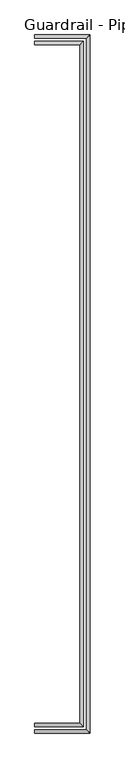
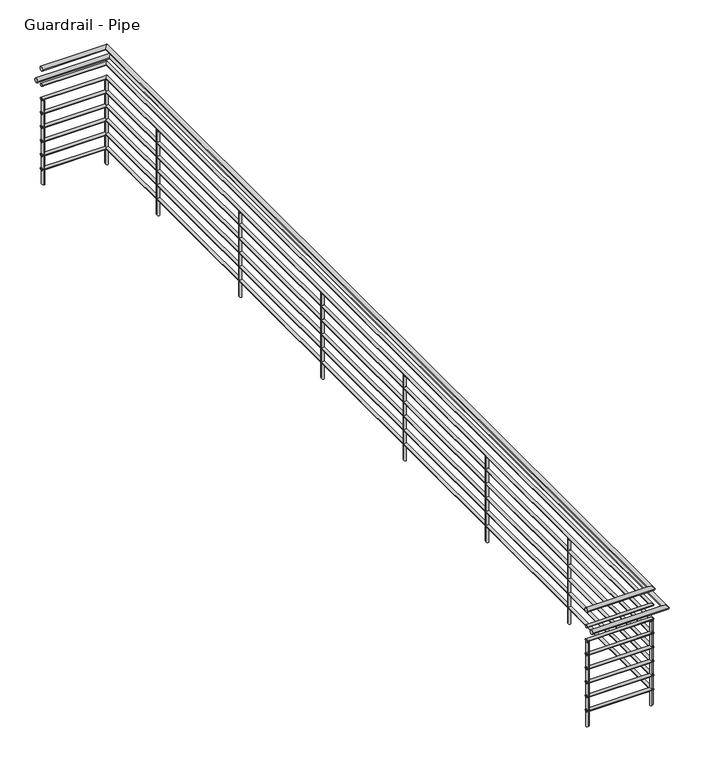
"""IFC4 building model written with IfcOpenShell, lengths in millimetres: railing geometry, Guardrail - Pipe."""

from ifc_helpers import new_model, si_unit, frame, origin, place, context, project, spatial, circle_curve, ellipse_curve, source, transform, mapped, element, save
from ifc_brep_helpers import plane_surface, cylinder_surface, advanced_brep


def guardrail_pipe_ba8d120a(model_context):
    return source(origin(), model_context, "Body", "AdvancedBrep", [
        advanced_brep(
        [(13389.3313551, 10867.95, 4705.35), (13389.3313551, 10906.05, 4705.35), (13967.1813551, 10867.95, 4705.35), (13929.0813551, 10906.05, 4705.35), (13967.1813551, 18983.25, 4705.35), (13929.0813551, 18945.15, 4705.35), (13389.3313551, 18983.25, 4705.35), (13389.3313551, 18945.15, 4705.35)],
        [
            (0, 1, circle_curve(frame((13389.3313551, 10887.0, 4705.35), z_axis=(-1.0, 0.0, 0.0), x_axis=(0.0, 1.0, 0.0)), 19.05)),
            (1, 0, circle_curve(frame((13389.3313551, 10887.0, 4705.35), z_axis=(-1.0, 0.0, 0.0), x_axis=(0.0, 1.0, 0.0)), 19.05)),
            (0, 2),
            (2, 3, ellipse_curve(frame((13948.1313551, 10887.0, 4705.35), z_axis=(-0.7071067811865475, -0.7071067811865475, 0.0), x_axis=(-0.7071067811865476, 0.7071067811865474, 0.0)), 26.9407684, 19.05)),
            (3, 1),
            (3, 2, ellipse_curve(frame((13948.1313551, 10887.0, 4705.35), z_axis=(-0.7071067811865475, -0.7071067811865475, 0.0), x_axis=(-0.7071067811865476, 0.7071067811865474, 0.0)), 26.9407684, 19.05)),
            (2, 4),
            (4, 5, ellipse_curve(frame((13948.1313551, 18964.2, 4705.35), z_axis=(0.7071067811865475, -0.7071067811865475, 0.0), x_axis=(-0.7071067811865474, -0.7071067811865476, 0.0)), 26.9407684, 19.05)),
            (5, 3),
            (5, 4, ellipse_curve(frame((13948.1313551, 18964.2, 4705.35), z_axis=(0.7071067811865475, -0.7071067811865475, 0.0), x_axis=(-0.7071067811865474, -0.7071067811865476, 0.0)), 26.9407684, 19.05)),
            (6, 7, circle_curve(frame((13389.3313551, 18964.2, 4705.35), z_axis=(-1.0, 0.0, 0.0), x_axis=(0.0, -1.0, 0.0)), 19.05)),
            (7, 6, circle_curve(frame((13389.3313551, 18964.2, 4705.35), z_axis=(-1.0, 0.0, 0.0), x_axis=(0.0, -1.0, 0.0)), 19.05)),
            (4, 6),
            (7, 5),
        ],
        [
            plane_surface(frame((13389.3313551, 10887.0, 4724.4), z_axis=(-1.0, 0.0, 0.0), x_axis=(0.0, 1.0, 0.0))),
            cylinder_surface(frame((13389.3313551, 10887.0, 4705.35), z_axis=(-1.0, 0.0, 0.0), x_axis=(0.0, 1.0, 0.0)), 19.05),
            cylinder_surface(frame((13948.1313551, 10887.0, 4705.35), z_axis=(0.0, -1.0, 0.0), x_axis=(-1.0, 0.0, 0.0)), 19.05),
            plane_surface(frame((13389.3313551, 18964.2, 4724.4), z_axis=(-1.0, 0.0, 0.0), x_axis=(0.0, -1.0, 0.0))),
            cylinder_surface(frame((13948.1313551, 18964.2, 4705.35), z_axis=(1.0, 0.0, 0.0), x_axis=(0.0, -1.0, 0.0)), 19.05),
        ],
        [
            (0, [[1, 2]]),
            (1, [[-1, 3, 4, 5]]),
            (1, [[-2, -5, 6, -3]]),
            (2, [[-4, 7, 8, 9]]),
            (2, [[-6, -9, 10, -7]]),
            (3, [[11, 12]]),
            (4, [[-8, 13, -12, 14]]),
            (4, [[-10, -14, -11, -13]]),
        ],
    ),
        advanced_brep(
        [(13389.3313551, 10874.3, 4559.3), (13389.3313551, 10899.7, 4559.3), (13960.8313551, 10874.3, 4559.3), (13935.4313551, 10899.7, 4559.3), (13960.8313551, 18976.9, 4559.3), (13935.4313551, 18951.5, 4559.3), (13389.3313551, 18976.9, 4559.3), (13389.3313551, 18951.5, 4559.3)],
        [
            (0, 1, circle_curve(frame((13389.3313551, 10887.0, 4559.3), z_axis=(-1.0, 0.0, 0.0), x_axis=(0.0, 1.0, 0.0)), 12.7)),
            (1, 0, circle_curve(frame((13389.3313551, 10887.0, 4559.3), z_axis=(-1.0, 0.0, 0.0), x_axis=(0.0, 1.0, 0.0)), 12.7)),
            (0, 2),
            (2, 3, ellipse_curve(frame((13948.1313551, 10887.0, 4559.3), z_axis=(-0.7071067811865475, -0.7071067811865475, 0.0), x_axis=(-0.7071067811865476, 0.7071067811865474, 0.0)), 17.9605122, 12.7)),
            (3, 1),
            (3, 2, ellipse_curve(frame((13948.1313551, 10887.0, 4559.3), z_axis=(-0.7071067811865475, -0.7071067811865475, 0.0), x_axis=(-0.7071067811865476, 0.7071067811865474, 0.0)), 17.9605122, 12.7)),
            (2, 4),
            (4, 5, ellipse_curve(frame((13948.1313551, 18964.2, 4559.3), z_axis=(0.7071067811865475, -0.7071067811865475, 0.0), x_axis=(-0.7071067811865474, -0.7071067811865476, 0.0)), 17.9605122, 12.7)),
            (5, 3),
            (5, 4, ellipse_curve(frame((13948.1313551, 18964.2, 4559.3), z_axis=(0.7071067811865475, -0.7071067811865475, 0.0), x_axis=(-0.7071067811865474, -0.7071067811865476, 0.0)), 17.9605122, 12.7)),
            (6, 7, circle_curve(frame((13389.3313551, 18964.2, 4559.3), z_axis=(-1.0, 0.0, 0.0), x_axis=(0.0, -1.0, 0.0)), 12.7)),
            (7, 6, circle_curve(frame((13389.3313551, 18964.2, 4559.3), z_axis=(-1.0, 0.0, 0.0), x_axis=(0.0, -1.0, 0.0)), 12.7)),
            (4, 6),
            (7, 5),
        ],
        [
            plane_surface(frame((13389.3313551, 10887.0, 4572.0), z_axis=(-1.0, 0.0, 0.0), x_axis=(0.0, 1.0, 0.0))),
            cylinder_surface(frame((13389.3313551, 10887.0, 4559.3), z_axis=(-1.0, 0.0, 0.0), x_axis=(0.0, 1.0, 0.0)), 12.7),
            cylinder_surface(frame((13948.1313551, 10887.0, 4559.3), z_axis=(0.0, -1.0, 0.0), x_axis=(-1.0, 0.0, 0.0)), 12.7),
            plane_surface(frame((13389.3313551, 18964.2, 4572.0), z_axis=(-1.0, 0.0, 0.0), x_axis=(0.0, -1.0, 0.0))),
            cylinder_surface(frame((13948.1313551, 18964.2, 4559.3), z_axis=(1.0, 0.0, 0.0), x_axis=(0.0, -1.0, 0.0)), 12.7),
        ],
        [
            (0, [[1, 2]]),
            (1, [[-1, 3, 4, 5]]),
            (1, [[-2, -5, 6, -3]]),
            (2, [[-4, 7, 8, 9]]),
            (2, [[-6, -9, 10, -7]]),
            (3, [[11, 12]]),
            (4, [[-8, 13, -12, 14]]),
            (4, [[-10, -14, -11, -13]]),
        ],
    ),
        advanced_brep(
        [(13389.3313551, 10791.75, 4552.95), (13389.3313551, 10829.85, 4552.95), (14043.3813551, 10791.75, 4552.95), (14005.2813551, 10829.85, 4552.95), (14043.3813551, 19059.45, 4552.95), (14005.2813551, 19021.35, 4552.95), (13389.3313551, 19059.45, 4552.95), (13389.3313551, 19021.35, 4552.95)],
        [
            (0, 1, circle_curve(frame((13389.3313551, 10810.8, 4552.95), z_axis=(-1.0, 0.0, 0.0), x_axis=(0.0, 1.0, 0.0)), 19.05)),
            (1, 0, circle_curve(frame((13389.3313551, 10810.8, 4552.95), z_axis=(-1.0, 0.0, 0.0), x_axis=(0.0, 1.0, 0.0)), 19.05)),
            (0, 2),
            (2, 3, ellipse_curve(frame((14024.3313551, 10810.8, 4552.95), z_axis=(-0.7071067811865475, -0.7071067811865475, 0.0), x_axis=(-0.7071067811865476, 0.7071067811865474, 0.0)), 26.9407684, 19.05)),
            (3, 1),
            (3, 2, ellipse_curve(frame((14024.3313551, 10810.8, 4552.95), z_axis=(-0.7071067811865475, -0.7071067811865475, 0.0), x_axis=(-0.7071067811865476, 0.7071067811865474, 0.0)), 26.9407684, 19.05)),
            (2, 4),
            (4, 5, ellipse_curve(frame((14024.3313551, 19040.4, 4552.95), z_axis=(0.7071067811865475, -0.7071067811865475, 0.0), x_axis=(-0.7071067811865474, -0.7071067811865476, 0.0)), 26.9407684, 19.05)),
            (5, 3),
            (5, 4, ellipse_curve(frame((14024.3313551, 19040.4, 4552.95), z_axis=(0.7071067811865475, -0.7071067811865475, 0.0), x_axis=(-0.7071067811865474, -0.7071067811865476, 0.0)), 26.9407684, 19.05)),
            (6, 7, circle_curve(frame((13389.3313551, 19040.4, 4552.95), z_axis=(-1.0, 0.0, 0.0), x_axis=(0.0, -1.0, 0.0)), 19.05)),
            (7, 6, circle_curve(frame((13389.3313551, 19040.4, 4552.95), z_axis=(-1.0, 0.0, 0.0), x_axis=(0.0, -1.0, 0.0)), 19.05)),
            (4, 6),
            (7, 5),
        ],
        [
            plane_surface(frame((13389.3313551, 10810.8, 4572.0), z_axis=(-1.0, 0.0, 0.0), x_axis=(0.0, 1.0, 0.0))),
            cylinder_surface(frame((13389.3313551, 10810.8, 4552.95), z_axis=(-1.0, 0.0, 0.0), x_axis=(0.0, 1.0, 0.0)), 19.05),
            cylinder_surface(frame((14024.3313551, 10810.8, 4552.95), z_axis=(0.0, -1.0, 0.0), x_axis=(-1.0, 0.0, 0.0)), 19.05),
            plane_surface(frame((13389.3313551, 19040.4, 4572.0), z_axis=(-1.0, 0.0, 0.0), x_axis=(0.0, -1.0, 0.0))),
            cylinder_surface(frame((14024.3313551, 19040.4, 4552.95), z_axis=(1.0, 0.0, 0.0), x_axis=(0.0, -1.0, 0.0)), 19.05),
        ],
        [
            (0, [[1, 2]]),
            (1, [[-1, 3, 4, 5]]),
            (1, [[-2, -5, 6, -3]]),
            (2, [[-4, 7, 8, 9]]),
            (2, [[-6, -9, 10, -7]]),
            (3, [[11, 12]]),
            (4, [[-8, 13, -12, 14]]),
            (4, [[-10, -14, -11, -13]]),
        ],
    ),
        advanced_brep(
        [(13389.3313551, 10874.3, 4432.3), (13389.3313551, 10899.7, 4432.3), (13960.8313551, 10874.3, 4432.3), (13935.4313551, 10899.7, 4432.3), (13960.8313551, 18976.9, 4432.3), (13935.4313551, 18951.5, 4432.3), (13389.3313551, 18976.9, 4432.3), (13389.3313551, 18951.5, 4432.3)],
        [
            (0, 1, circle_curve(frame((13389.3313551, 10887.0, 4432.3), z_axis=(-1.0, 0.0, 0.0), x_axis=(0.0, 1.0, 0.0)), 12.7)),
            (1, 0, circle_curve(frame((13389.3313551, 10887.0, 4432.3), z_axis=(-1.0, 0.0, 0.0), x_axis=(0.0, 1.0, 0.0)), 12.7)),
            (0, 2),
            (2, 3, ellipse_curve(frame((13948.1313551, 10887.0, 4432.3), z_axis=(-0.7071067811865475, -0.7071067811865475, 0.0), x_axis=(-0.7071067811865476, 0.7071067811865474, 0.0)), 17.9605122, 12.7)),
            (3, 1),
            (3, 2, ellipse_curve(frame((13948.1313551, 10887.0, 4432.3), z_axis=(-0.7071067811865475, -0.7071067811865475, 0.0), x_axis=(-0.7071067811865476, 0.7071067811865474, 0.0)), 17.9605122, 12.7)),
            (2, 4),
            (4, 5, ellipse_curve(frame((13948.1313551, 18964.2, 4432.3), z_axis=(0.7071067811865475, -0.7071067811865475, 0.0), x_axis=(-0.7071067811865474, -0.7071067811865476, 0.0)), 17.9605122, 12.7)),
            (5, 3),
            (5, 4, ellipse_curve(frame((13948.1313551, 18964.2, 4432.3), z_axis=(0.7071067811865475, -0.7071067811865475, 0.0), x_axis=(-0.7071067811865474, -0.7071067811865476, 0.0)), 17.9605122, 12.7)),
            (6, 7, circle_curve(frame((13389.3313551, 18964.2, 4432.3), z_axis=(-1.0, 0.0, 0.0), x_axis=(0.0, -1.0, 0.0)), 12.7)),
            (7, 6, circle_curve(frame((13389.3313551, 18964.2, 4432.3), z_axis=(-1.0, 0.0, 0.0), x_axis=(0.0, -1.0, 0.0)), 12.7)),
            (4, 6),
            (7, 5),
        ],
        [
            plane_surface(frame((13389.3313551, 10887.0, 4445.0), z_axis=(-1.0, 0.0, 0.0), x_axis=(0.0, 1.0, 0.0))),
            cylinder_surface(frame((13389.3313551, 10887.0, 4432.3), z_axis=(-1.0, 0.0, 0.0), x_axis=(0.0, 1.0, 0.0)), 12.7),
            cylinder_surface(frame((13948.1313551, 10887.0, 4432.3), z_axis=(0.0, -1.0, 0.0), x_axis=(-1.0, 0.0, 0.0)), 12.7),
            plane_surface(frame((13389.3313551, 18964.2, 4445.0), z_axis=(-1.0, 0.0, 0.0), x_axis=(0.0, -1.0, 0.0))),
            cylinder_surface(frame((13948.1313551, 18964.2, 4432.3), z_axis=(1.0, 0.0, 0.0), x_axis=(0.0, -1.0, 0.0)), 12.7),
        ],
        [
            (0, [[1, 2]]),
            (1, [[-1, 3, 4, 5]]),
            (1, [[-2, -5, 6, -3]]),
            (2, [[-4, 7, 8, 9]]),
            (2, [[-6, -9, 10, -7]]),
            (3, [[11, 12]]),
            (4, [[-8, 13, -12, 14]]),
            (4, [[-10, -14, -11, -13]]),
        ],
    ),
        advanced_brep(
        [(13389.3313551, 10874.3, 4305.3), (13389.3313551, 10899.7, 4305.3), (13960.8313551, 10874.3, 4305.3), (13935.4313551, 10899.7, 4305.3), (13960.8313551, 18976.9, 4305.3), (13935.4313551, 18951.5, 4305.3), (13389.3313551, 18976.9, 4305.3), (13389.3313551, 18951.5, 4305.3)],
        [
            (0, 1, circle_curve(frame((13389.3313551, 10887.0, 4305.3), z_axis=(-1.0, 0.0, 0.0), x_axis=(0.0, 1.0, 0.0)), 12.7)),
            (1, 0, circle_curve(frame((13389.3313551, 10887.0, 4305.3), z_axis=(-1.0, 0.0, 0.0), x_axis=(0.0, 1.0, 0.0)), 12.7)),
            (0, 2),
            (2, 3, ellipse_curve(frame((13948.1313551, 10887.0, 4305.3), z_axis=(-0.7071067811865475, -0.7071067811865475, 0.0), x_axis=(-0.7071067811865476, 0.7071067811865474, 0.0)), 17.9605122, 12.7)),
            (3, 1),
            (3, 2, ellipse_curve(frame((13948.1313551, 10887.0, 4305.3), z_axis=(-0.7071067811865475, -0.7071067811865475, 0.0), x_axis=(-0.7071067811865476, 0.7071067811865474, 0.0)), 17.9605122, 12.7)),
            (2, 4),
            (4, 5, ellipse_curve(frame((13948.1313551, 18964.2, 4305.3), z_axis=(0.7071067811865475, -0.7071067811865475, 0.0), x_axis=(-0.7071067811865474, -0.7071067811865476, 0.0)), 17.9605122, 12.7)),
            (5, 3),
            (5, 4, ellipse_curve(frame((13948.1313551, 18964.2, 4305.3), z_axis=(0.7071067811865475, -0.7071067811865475, 0.0), x_axis=(-0.7071067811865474, -0.7071067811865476, 0.0)), 17.9605122, 12.7)),
            (6, 7, circle_curve(frame((13389.3313551, 18964.2, 4305.3), z_axis=(-1.0, 0.0, 0.0), x_axis=(0.0, -1.0, 0.0)), 12.7)),
            (7, 6, circle_curve(frame((13389.3313551, 18964.2, 4305.3), z_axis=(-1.0, 0.0, 0.0), x_axis=(0.0, -1.0, 0.0)), 12.7)),
            (4, 6),
            (7, 5),
        ],
        [
            plane_surface(frame((13389.3313551, 10887.0, 4318.0), z_axis=(-1.0, 0.0, 0.0), x_axis=(0.0, 1.0, 0.0))),
            cylinder_surface(frame((13389.3313551, 10887.0, 4305.3), z_axis=(-1.0, 0.0, 0.0), x_axis=(0.0, 1.0, 0.0)), 12.7),
            cylinder_surface(frame((13948.1313551, 10887.0, 4305.3), z_axis=(0.0, -1.0, 0.0), x_axis=(-1.0, 0.0, 0.0)), 12.7),
            plane_surface(frame((13389.3313551, 18964.2, 4318.0), z_axis=(-1.0, 0.0, 0.0), x_axis=(0.0, -1.0, 0.0))),
            cylinder_surface(frame((13948.1313551, 18964.2, 4305.3), z_axis=(1.0, 0.0, 0.0), x_axis=(0.0, -1.0, 0.0)), 12.7),
        ],
        [
            (0, [[1, 2]]),
            (1, [[-1, 3, 4, 5]]),
            (1, [[-2, -5, 6, -3]]),
            (2, [[-4, 7, 8, 9]]),
            (2, [[-6, -9, 10, -7]]),
            (3, [[11, 12]]),
            (4, [[-8, 13, -12, 14]]),
            (4, [[-10, -14, -11, -13]]),
        ],
    ),
        advanced_brep(
        [(13389.3313551, 10874.3, 4178.3), (13389.3313551, 10899.7, 4178.3), (13960.8313551, 10874.3, 4178.3), (13935.4313551, 10899.7, 4178.3), (13960.8313551, 18976.9, 4178.3), (13935.4313551, 18951.5, 4178.3), (13389.3313551, 18976.9, 4178.3), (13389.3313551, 18951.5, 4178.3)],
        [
            (0, 1, circle_curve(frame((13389.3313551, 10887.0, 4178.3), z_axis=(-1.0, 0.0, 0.0), x_axis=(0.0, 1.0, 0.0)), 12.7)),
            (1, 0, circle_curve(frame((13389.3313551, 10887.0, 4178.3), z_axis=(-1.0, 0.0, 0.0), x_axis=(0.0, 1.0, 0.0)), 12.7)),
            (0, 2),
            (2, 3, ellipse_curve(frame((13948.1313551, 10887.0, 4178.3), z_axis=(-0.7071067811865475, -0.7071067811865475, 0.0), x_axis=(-0.7071067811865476, 0.7071067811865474, 0.0)), 17.9605122, 12.7)),
            (3, 1),
            (3, 2, ellipse_curve(frame((13948.1313551, 10887.0, 4178.3), z_axis=(-0.7071067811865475, -0.7071067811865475, 0.0), x_axis=(-0.7071067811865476, 0.7071067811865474, 0.0)), 17.9605122, 12.7)),
            (2, 4),
            (4, 5, ellipse_curve(frame((13948.1313551, 18964.2, 4178.3), z_axis=(0.7071067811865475, -0.7071067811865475, 0.0), x_axis=(-0.7071067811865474, -0.7071067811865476, 0.0)), 17.9605122, 12.7)),
            (5, 3),
            (5, 4, ellipse_curve(frame((13948.1313551, 18964.2, 4178.3), z_axis=(0.7071067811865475, -0.7071067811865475, 0.0), x_axis=(-0.7071067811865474, -0.7071067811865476, 0.0)), 17.9605122, 12.7)),
            (6, 7, circle_curve(frame((13389.3313551, 18964.2, 4178.3), z_axis=(-1.0, 0.0, 0.0), x_axis=(0.0, -1.0, 0.0)), 12.7)),
            (7, 6, circle_curve(frame((13389.3313551, 18964.2, 4178.3), z_axis=(-1.0, 0.0, 0.0), x_axis=(0.0, -1.0, 0.0)), 12.7)),
            (4, 6),
            (7, 5),
        ],
        [
            plane_surface(frame((13389.3313551, 10887.0, 4191.0), z_axis=(-1.0, 0.0, 0.0), x_axis=(0.0, 1.0, 0.0))),
            cylinder_surface(frame((13389.3313551, 10887.0, 4178.3), z_axis=(-1.0, 0.0, 0.0), x_axis=(0.0, 1.0, 0.0)), 12.7),
            cylinder_surface(frame((13948.1313551, 10887.0, 4178.3), z_axis=(0.0, -1.0, 0.0), x_axis=(-1.0, 0.0, 0.0)), 12.7),
            plane_surface(frame((13389.3313551, 18964.2, 4191.0), z_axis=(-1.0, 0.0, 0.0), x_axis=(0.0, -1.0, 0.0))),
            cylinder_surface(frame((13948.1313551, 18964.2, 4178.3), z_axis=(1.0, 0.0, 0.0), x_axis=(0.0, -1.0, 0.0)), 12.7),
        ],
        [
            (0, [[1, 2]]),
            (1, [[-1, 3, 4, 5]]),
            (1, [[-2, -5, 6, -3]]),
            (2, [[-4, 7, 8, 9]]),
            (2, [[-6, -9, 10, -7]]),
            (3, [[11, 12]]),
            (4, [[-8, 13, -12, 14]]),
            (4, [[-10, -14, -11, -13]]),
        ],
    ),
        advanced_brep(
        [(13389.3313551, 10874.3, 4051.3), (13389.3313551, 10899.7, 4051.3), (13960.8313551, 10874.3, 4051.3), (13935.4313551, 10899.7, 4051.3), (13960.8313551, 18976.9, 4051.3), (13935.4313551, 18951.5, 4051.3), (13389.3313551, 18976.9, 4051.3), (13389.3313551, 18951.5, 4051.3)],
        [
            (0, 1, circle_curve(frame((13389.3313551, 10887.0, 4051.3), z_axis=(-1.0, 0.0, 0.0), x_axis=(0.0, 1.0, 0.0)), 12.7)),
            (1, 0, circle_curve(frame((13389.3313551, 10887.0, 4051.3), z_axis=(-1.0, 0.0, 0.0), x_axis=(0.0, 1.0, 0.0)), 12.7)),
            (0, 2),
            (2, 3, ellipse_curve(frame((13948.1313551, 10887.0, 4051.3), z_axis=(-0.7071067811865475, -0.7071067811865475, 0.0), x_axis=(-0.7071067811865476, 0.7071067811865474, 0.0)), 17.9605122, 12.7)),
            (3, 1),
            (3, 2, ellipse_curve(frame((13948.1313551, 10887.0, 4051.3), z_axis=(-0.7071067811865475, -0.7071067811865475, 0.0), x_axis=(-0.7071067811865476, 0.7071067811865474, 0.0)), 17.9605122, 12.7)),
            (2, 4),
            (4, 5, ellipse_curve(frame((13948.1313551, 18964.2, 4051.3), z_axis=(0.7071067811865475, -0.7071067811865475, 0.0), x_axis=(-0.7071067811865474, -0.7071067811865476, 0.0)), 17.9605122, 12.7)),
            (5, 3),
            (5, 4, ellipse_curve(frame((13948.1313551, 18964.2, 4051.3), z_axis=(0.7071067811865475, -0.7071067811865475, 0.0), x_axis=(-0.7071067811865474, -0.7071067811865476, 0.0)), 17.9605122, 12.7)),
            (6, 7, circle_curve(frame((13389.3313551, 18964.2, 4051.3), z_axis=(-1.0, 0.0, 0.0), x_axis=(0.0, -1.0, 0.0)), 12.7)),
            (7, 6, circle_curve(frame((13389.3313551, 18964.2, 4051.3), z_axis=(-1.0, 0.0, 0.0), x_axis=(0.0, -1.0, 0.0)), 12.7)),
            (4, 6),
            (7, 5),
        ],
        [
            plane_surface(frame((13389.3313551, 10887.0, 4064.0), z_axis=(-1.0, 0.0, 0.0), x_axis=(0.0, 1.0, 0.0))),
            cylinder_surface(frame((13389.3313551, 10887.0, 4051.3), z_axis=(-1.0, 0.0, 0.0), x_axis=(0.0, 1.0, 0.0)), 12.7),
            cylinder_surface(frame((13948.1313551, 10887.0, 4051.3), z_axis=(0.0, -1.0, 0.0), x_axis=(-1.0, 0.0, 0.0)), 12.7),
            plane_surface(frame((13389.3313551, 18964.2, 4064.0), z_axis=(-1.0, 0.0, 0.0), x_axis=(0.0, -1.0, 0.0))),
            cylinder_surface(frame((13948.1313551, 18964.2, 4051.3), z_axis=(1.0, 0.0, 0.0), x_axis=(0.0, -1.0, 0.0)), 12.7),
        ],
        [
            (0, [[1, 2]]),
            (1, [[-1, 3, 4, 5]]),
            (1, [[-2, -5, 6, -3]]),
            (2, [[-4, 7, 8, 9]]),
            (2, [[-6, -9, 10, -7]]),
            (3, [[11, 12]]),
            (4, [[-8, 13, -12, 14]]),
            (4, [[-10, -14, -11, -13]]),
        ],
    ),
        advanced_brep(
        [(13389.3313551, 10874.3, 3924.3), (13389.3313551, 10899.7, 3924.3), (13960.8313551, 10874.3, 3924.3), (13935.4313551, 10899.7, 3924.3), (13960.8313551, 18976.9, 3924.3), (13935.4313551, 18951.5, 3924.3), (13389.3313551, 18976.9, 3924.3), (13389.3313551, 18951.5, 3924.3)],
        [
            (0, 1, circle_curve(frame((13389.3313551, 10887.0, 3924.3), z_axis=(-1.0, 0.0, 0.0), x_axis=(0.0, 1.0, 0.0)), 12.7)),
            (1, 0, circle_curve(frame((13389.3313551, 10887.0, 3924.3), z_axis=(-1.0, 0.0, 0.0), x_axis=(0.0, 1.0, 0.0)), 12.7)),
            (0, 2),
            (2, 3, ellipse_curve(frame((13948.1313551, 10887.0, 3924.3), z_axis=(-0.7071067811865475, -0.7071067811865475, 0.0), x_axis=(-0.7071067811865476, 0.7071067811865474, 0.0)), 17.9605122, 12.7)),
            (3, 1),
            (3, 2, ellipse_curve(frame((13948.1313551, 10887.0, 3924.3), z_axis=(-0.7071067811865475, -0.7071067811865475, 0.0), x_axis=(-0.7071067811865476, 0.7071067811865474, 0.0)), 17.9605122, 12.7)),
            (2, 4),
            (4, 5, ellipse_curve(frame((13948.1313551, 18964.2, 3924.3), z_axis=(0.7071067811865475, -0.7071067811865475, 0.0), x_axis=(-0.7071067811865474, -0.7071067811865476, 0.0)), 17.9605122, 12.7)),
            (5, 3),
            (5, 4, ellipse_curve(frame((13948.1313551, 18964.2, 3924.3), z_axis=(0.7071067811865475, -0.7071067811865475, 0.0), x_axis=(-0.7071067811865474, -0.7071067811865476, 0.0)), 17.9605122, 12.7)),
            (6, 7, circle_curve(frame((13389.3313551, 18964.2, 3924.3), z_axis=(-1.0, 0.0, 0.0), x_axis=(0.0, -1.0, 0.0)), 12.7)),
            (7, 6, circle_curve(frame((13389.3313551, 18964.2, 3924.3), z_axis=(-1.0, 0.0, 0.0), x_axis=(0.0, -1.0, 0.0)), 12.7)),
            (4, 6),
            (7, 5),
        ],
        [
            plane_surface(frame((13389.3313551, 10887.0, 3937.0), z_axis=(-1.0, 0.0, 0.0), x_axis=(0.0, 1.0, 0.0))),
            cylinder_surface(frame((13389.3313551, 10887.0, 3924.3), z_axis=(-1.0, 0.0, 0.0), x_axis=(0.0, 1.0, 0.0)), 12.7),
            cylinder_surface(frame((13948.1313551, 10887.0, 3924.3), z_axis=(0.0, -1.0, 0.0), x_axis=(-1.0, 0.0, 0.0)), 12.7),
            plane_surface(frame((13389.3313551, 18964.2, 3937.0), z_axis=(-1.0, 0.0, 0.0), x_axis=(0.0, -1.0, 0.0))),
            cylinder_surface(frame((13948.1313551, 18964.2, 3924.3), z_axis=(1.0, 0.0, 0.0), x_axis=(0.0, -1.0, 0.0)), 12.7),
        ],
        [
            (0, [[1, 2]]),
            (1, [[-1, 3, 4, 5]]),
            (1, [[-2, -5, 6, -3]]),
            (2, [[-4, 7, 8, 9]]),
            (2, [[-6, -9, 10, -7]]),
            (3, [[11, 12]]),
            (4, [[-8, 13, -12, 14]]),
            (4, [[-10, -14, -11, -13]]),
        ],
    ),
        advanced_brep(
        [(13389.3313551, 10874.3, 3797.3), (13389.3313551, 10899.7, 3797.3), (13960.8313551, 10874.3, 3797.3), (13935.4313551, 10899.7, 3797.3), (13960.8313551, 18976.9, 3797.3), (13935.4313551, 18951.5, 3797.3), (13389.3313551, 18976.9, 3797.3), (13389.3313551, 18951.5, 3797.3)],
        [
            (0, 1, circle_curve(frame((13389.3313551, 10887.0, 3797.3), z_axis=(-1.0, 0.0, 0.0), x_axis=(0.0, 1.0, 0.0)), 12.7)),
            (1, 0, circle_curve(frame((13389.3313551, 10887.0, 3797.3), z_axis=(-1.0, 0.0, 0.0), x_axis=(0.0, 1.0, 0.0)), 12.7)),
            (0, 2),
            (2, 3, ellipse_curve(frame((13948.1313551, 10887.0, 3797.3), z_axis=(-0.7071067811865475, -0.7071067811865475, 0.0), x_axis=(-0.7071067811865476, 0.7071067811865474, 0.0)), 17.9605122, 12.7)),
            (3, 1),
            (3, 2, ellipse_curve(frame((13948.1313551, 10887.0, 3797.3), z_axis=(-0.7071067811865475, -0.7071067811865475, 0.0), x_axis=(-0.7071067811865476, 0.7071067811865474, 0.0)), 17.9605122, 12.7)),
            (2, 4),
            (4, 5, ellipse_curve(frame((13948.1313551, 18964.2, 3797.3), z_axis=(0.7071067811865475, -0.7071067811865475, 0.0), x_axis=(-0.7071067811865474, -0.7071067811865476, 0.0)), 17.9605122, 12.7)),
            (5, 3),
            (5, 4, ellipse_curve(frame((13948.1313551, 18964.2, 3797.3), z_axis=(0.7071067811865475, -0.7071067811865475, 0.0), x_axis=(-0.7071067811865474, -0.7071067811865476, 0.0)), 17.9605122, 12.7)),
            (6, 7, circle_curve(frame((13389.3313551, 18964.2, 3797.3), z_axis=(-1.0, 0.0, 0.0), x_axis=(0.0, -1.0, 0.0)), 12.7)),
            (7, 6, circle_curve(frame((13389.3313551, 18964.2, 3797.3), z_axis=(-1.0, 0.0, 0.0), x_axis=(0.0, -1.0, 0.0)), 12.7)),
            (4, 6),
            (7, 5),
        ],
        [
            plane_surface(frame((13389.3313551, 10887.0, 3810.0), z_axis=(-1.0, 0.0, 0.0), x_axis=(0.0, 1.0, 0.0))),
            cylinder_surface(frame((13389.3313551, 10887.0, 3797.3), z_axis=(-1.0, 0.0, 0.0), x_axis=(0.0, 1.0, 0.0)), 12.7),
            cylinder_surface(frame((13948.1313551, 10887.0, 3797.3), z_axis=(0.0, -1.0, 0.0), x_axis=(-1.0, 0.0, 0.0)), 12.7),
            plane_surface(frame((13389.3313551, 18964.2, 3810.0), z_axis=(-1.0, 0.0, 0.0), x_axis=(0.0, -1.0, 0.0))),
            cylinder_surface(frame((13948.1313551, 18964.2, 3797.3), z_axis=(1.0, 0.0, 0.0), x_axis=(0.0, -1.0, 0.0)), 12.7),
        ],
        [
            (0, [[1, 2]]),
            (1, [[-1, 3, 4, 5]]),
            (1, [[-2, -5, 6, -3]]),
            (2, [[-4, 7, 8, 9]]),
            (2, [[-6, -9, 10, -7]]),
            (3, [[11, 12]]),
            (4, [[-8, 13, -12, 14]]),
            (4, [[-10, -14, -11, -13]]),
        ],
    ),
        advanced_brep(
        [(13935.4313551, 18202.2, 4419.6), (13960.8313551, 18202.2, 4419.6), (13960.8313551, 18202.2, 3657.6), (13935.4313551, 18202.2, 3657.6)],
        [
            (0, 1, ellipse_curve(frame((13948.1313551, 18202.2, 4419.6), z_axis=(0.0, 0.5368579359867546, -0.8436726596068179), x_axis=(0.0, 0.843672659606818, 0.5368579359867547)), 15.0532317, 12.7)),
            (1, 2),
            (2, 3, ellipse_curve(frame((13948.1313551, 18202.2, 3657.6), z_axis=(0.0, -0.536857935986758, 0.8436726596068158), x_axis=(0.0, 0.8436726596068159, 0.536857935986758)), 15.0532317, 12.7)),
            (3, 0),
            (3, 2, ellipse_curve(frame((13948.1313551, 18202.2, 3657.6), z_axis=(0.0, -0.536857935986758, 0.8436726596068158), x_axis=(0.0, 0.8436726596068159, 0.536857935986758)), 15.0532317, 12.7)),
            (1, 0, ellipse_curve(frame((13948.1313551, 18202.2, 4419.6), z_axis=(0.0, 0.5368579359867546, -0.8436726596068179), x_axis=(0.0, 0.843672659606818, 0.5368579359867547)), 15.0532317, 12.7)),
        ],
        [
            cylinder_surface(frame((13948.1313551, 18202.2, 3429.0), z_axis=(0.0, 0.0, 1.0), x_axis=(1.0, 0.0, 0.0)), 12.7),
            plane_surface(frame((13973.5313551, 18227.6, 4435.7628938), z_axis=(0.0, -0.5368579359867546, 0.8436726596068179), x_axis=(-1.0, 0.0, 0.0))),
            plane_surface(frame((13973.5313551, 18176.8, 3641.4371062), z_axis=(0.0, 0.536857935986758, -0.8436726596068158), x_axis=(-1.0, 0.0, 0.0))),
        ],
        [
            (0, [[1, 2, 3, 4]]),
            (0, [[5, -2, 6, -4]]),
            (1, [[-6, -1]]),
            (2, [[-5, -3]]),
        ],
    ),
        advanced_brep(
        [(13935.4313551, 16983.0, 4419.6), (13960.8313551, 16983.0, 4419.6), (13960.8313551, 16983.0, 3657.6), (13935.4313551, 16983.0, 3657.6)],
        [
            (0, 1, ellipse_curve(frame((13948.1313551, 16983.0, 4419.6), z_axis=(0.0, 0.5368579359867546, -0.8436726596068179), x_axis=(0.0, 0.843672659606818, 0.5368579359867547)), 15.0532317, 12.7)),
            (1, 2),
            (2, 3, ellipse_curve(frame((13948.1313551, 16983.0, 3657.6), z_axis=(0.0, -0.536857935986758, 0.8436726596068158), x_axis=(0.0, 0.8436726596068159, 0.536857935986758)), 15.0532317, 12.7)),
            (3, 0),
            (3, 2, ellipse_curve(frame((13948.1313551, 16983.0, 3657.6), z_axis=(0.0, -0.536857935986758, 0.8436726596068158), x_axis=(0.0, 0.8436726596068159, 0.536857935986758)), 15.0532317, 12.7)),
            (1, 0, ellipse_curve(frame((13948.1313551, 16983.0, 4419.6), z_axis=(0.0, 0.5368579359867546, -0.8436726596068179), x_axis=(0.0, 0.843672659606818, 0.5368579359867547)), 15.0532317, 12.7)),
        ],
        [
            cylinder_surface(frame((13948.1313551, 16983.0, 3429.0), z_axis=(0.0, 0.0, 1.0), x_axis=(1.0, 0.0, 0.0)), 12.7),
            plane_surface(frame((13973.5313551, 17008.4, 4435.7628938), z_axis=(0.0, -0.5368579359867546, 0.8436726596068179), x_axis=(-1.0, 0.0, 0.0))),
            plane_surface(frame((13973.5313551, 16957.6, 3641.4371062), z_axis=(0.0, 0.536857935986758, -0.8436726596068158), x_axis=(-1.0, 0.0, 0.0))),
        ],
        [
            (0, [[1, 2, 3, 4]]),
            (0, [[5, -2, 6, -4]]),
            (1, [[-6, -1]]),
            (2, [[-5, -3]]),
        ],
    ),
        advanced_brep(
        [(13935.4313551, 15763.8, 4419.6), (13960.8313551, 15763.8, 4419.6), (13960.8313551, 15763.8, 3657.6), (13935.4313551, 15763.8, 3657.6)],
        [
            (0, 1, ellipse_curve(frame((13948.1313551, 15763.8, 4419.6), z_axis=(0.0, 0.5368579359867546, -0.8436726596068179), x_axis=(0.0, 0.843672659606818, 0.5368579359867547)), 15.0532317, 12.7)),
            (1, 2),
            (2, 3, ellipse_curve(frame((13948.1313551, 15763.8, 3657.6), z_axis=(0.0, -0.536857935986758, 0.8436726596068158), x_axis=(0.0, 0.8436726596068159, 0.536857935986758)), 15.0532317, 12.7)),
            (3, 0),
            (3, 2, ellipse_curve(frame((13948.1313551, 15763.8, 3657.6), z_axis=(0.0, -0.536857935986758, 0.8436726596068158), x_axis=(0.0, 0.8436726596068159, 0.536857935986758)), 15.0532317, 12.7)),
            (1, 0, ellipse_curve(frame((13948.1313551, 15763.8, 4419.6), z_axis=(0.0, 0.5368579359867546, -0.8436726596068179), x_axis=(0.0, 0.843672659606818, 0.5368579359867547)), 15.0532317, 12.7)),
        ],
        [
            cylinder_surface(frame((13948.1313551, 15763.8, 3429.0), z_axis=(0.0, 0.0, 1.0), x_axis=(1.0, 0.0, 0.0)), 12.7),
            plane_surface(frame((13973.5313551, 15789.2, 4435.7628938), z_axis=(0.0, -0.5368579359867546, 0.8436726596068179), x_axis=(-1.0, 0.0, 0.0))),
            plane_surface(frame((13973.5313551, 15738.4, 3641.4371062), z_axis=(0.0, 0.536857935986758, -0.8436726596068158), x_axis=(-1.0, 0.0, 0.0))),
        ],
        [
            (0, [[1, 2, 3, 4]]),
            (0, [[5, -2, 6, -4]]),
            (1, [[-6, -1]]),
            (2, [[-5, -3]]),
        ],
    ),
        advanced_brep(
        [(13935.4313551, 14544.6, 4419.6), (13960.8313551, 14544.6, 4419.6), (13960.8313551, 14544.6, 3657.6), (13935.4313551, 14544.6, 3657.6)],
        [
            (0, 1, ellipse_curve(frame((13948.1313551, 14544.6, 4419.6), z_axis=(0.0, 0.5368579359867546, -0.8436726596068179), x_axis=(0.0, 0.843672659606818, 0.5368579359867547)), 15.0532317, 12.7)),
            (1, 2),
            (2, 3, ellipse_curve(frame((13948.1313551, 14544.6, 3657.6), z_axis=(0.0, -0.536857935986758, 0.8436726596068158), x_axis=(0.0, 0.8436726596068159, 0.536857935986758)), 15.0532317, 12.7)),
            (3, 0),
            (3, 2, ellipse_curve(frame((13948.1313551, 14544.6, 3657.6), z_axis=(0.0, -0.536857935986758, 0.8436726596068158), x_axis=(0.0, 0.8436726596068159, 0.536857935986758)), 15.0532317, 12.7)),
            (1, 0, ellipse_curve(frame((13948.1313551, 14544.6, 4419.6), z_axis=(0.0, 0.5368579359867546, -0.8436726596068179), x_axis=(0.0, 0.843672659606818, 0.5368579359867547)), 15.0532317, 12.7)),
        ],
        [
            cylinder_surface(frame((13948.1313551, 14544.6, 3429.0), z_axis=(0.0, 0.0, 1.0), x_axis=(1.0, 0.0, 0.0)), 12.7),
            plane_surface(frame((13973.5313551, 14570.0, 4435.7628938), z_axis=(0.0, -0.5368579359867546, 0.8436726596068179), x_axis=(-1.0, 0.0, 0.0))),
            plane_surface(frame((13973.5313551, 14519.2, 3641.4371062), z_axis=(0.0, 0.536857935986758, -0.8436726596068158), x_axis=(-1.0, 0.0, 0.0))),
        ],
        [
            (0, [[1, 2, 3, 4]]),
            (0, [[5, -2, 6, -4]]),
            (1, [[-6, -1]]),
            (2, [[-5, -3]]),
        ],
    ),
        advanced_brep(
        [(13935.4313551, 13325.4, 4419.6), (13960.8313551, 13325.4, 4419.6), (13960.8313551, 13325.4, 3657.6), (13935.4313551, 13325.4, 3657.6)],
        [
            (0, 1, ellipse_curve(frame((13948.1313551, 13325.4, 4419.6), z_axis=(0.0, 0.5368579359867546, -0.8436726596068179), x_axis=(0.0, 0.843672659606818, 0.5368579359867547)), 15.0532317, 12.7)),
            (1, 2),
            (2, 3, ellipse_curve(frame((13948.1313551, 13325.4, 3657.6), z_axis=(0.0, -0.536857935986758, 0.8436726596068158), x_axis=(0.0, 0.8436726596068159, 0.536857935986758)), 15.0532317, 12.7)),
            (3, 0),
            (3, 2, ellipse_curve(frame((13948.1313551, 13325.4, 3657.6), z_axis=(0.0, -0.536857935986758, 0.8436726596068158), x_axis=(0.0, 0.8436726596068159, 0.536857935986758)), 15.0532317, 12.7)),
            (1, 0, ellipse_curve(frame((13948.1313551, 13325.4, 4419.6), z_axis=(0.0, 0.5368579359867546, -0.8436726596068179), x_axis=(0.0, 0.843672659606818, 0.5368579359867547)), 15.0532317, 12.7)),
        ],
        [
            cylinder_surface(frame((13948.1313551, 13325.4, 3429.0), z_axis=(0.0, 0.0, 1.0), x_axis=(1.0, 0.0, 0.0)), 12.7),
            plane_surface(frame((13973.5313551, 13350.8, 4435.7628938), z_axis=(0.0, -0.5368579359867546, 0.8436726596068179), x_axis=(-1.0, 0.0, 0.0))),
            plane_surface(frame((13973.5313551, 13300.0, 3641.4371062), z_axis=(0.0, 0.536857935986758, -0.8436726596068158), x_axis=(-1.0, 0.0, 0.0))),
        ],
        [
            (0, [[1, 2, 3, 4]]),
            (0, [[5, -2, 6, -4]]),
            (1, [[-6, -1]]),
            (2, [[-5, -3]]),
        ],
    ),
        advanced_brep(
        [(13935.4313551, 12106.2, 4419.6), (13960.8313551, 12106.2, 4419.6), (13960.8313551, 12106.2, 3657.6), (13935.4313551, 12106.2, 3657.6)],
        [
            (0, 1, ellipse_curve(frame((13948.1313551, 12106.2, 4419.6), z_axis=(0.0, 0.5368579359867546, -0.8436726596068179), x_axis=(0.0, 0.843672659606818, 0.5368579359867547)), 15.0532317, 12.7)),
            (1, 2),
            (2, 3, ellipse_curve(frame((13948.1313551, 12106.2, 3657.6), z_axis=(0.0, -0.536857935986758, 0.8436726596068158), x_axis=(0.0, 0.8436726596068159, 0.536857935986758)), 15.0532317, 12.7)),
            (3, 0),
            (3, 2, ellipse_curve(frame((13948.1313551, 12106.2, 3657.6), z_axis=(0.0, -0.536857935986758, 0.8436726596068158), x_axis=(0.0, 0.8436726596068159, 0.536857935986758)), 15.0532317, 12.7)),
            (1, 0, ellipse_curve(frame((13948.1313551, 12106.2, 4419.6), z_axis=(0.0, 0.5368579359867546, -0.8436726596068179), x_axis=(0.0, 0.843672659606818, 0.5368579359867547)), 15.0532317, 12.7)),
        ],
        [
            cylinder_surface(frame((13948.1313551, 12106.2, 3429.0), z_axis=(0.0, 0.0, 1.0), x_axis=(1.0, 0.0, 0.0)), 12.7),
            plane_surface(frame((13973.5313551, 12131.6, 4435.7628938), z_axis=(0.0, -0.5368579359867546, 0.8436726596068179), x_axis=(-1.0, 0.0, 0.0))),
            plane_surface(frame((13973.5313551, 12080.8, 3641.4371062), z_axis=(0.0, 0.536857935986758, -0.8436726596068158), x_axis=(-1.0, 0.0, 0.0))),
        ],
        [
            (0, [[1, 2, 3, 4]]),
            (0, [[5, -2, 6, -4]]),
            (1, [[-6, -1]]),
            (2, [[-5, -3]]),
        ],
    ),
        advanced_brep(
        [(13935.4313551, 18964.2, 4419.6), (13960.8313551, 18964.2, 4419.6), (13960.8313551, 18964.2, 3657.6), (13935.4313551, 18964.2, 3657.6)],
        [
            (0, 1, ellipse_curve(frame((13948.1313551, 18964.2, 4419.6), z_axis=(0.0, 0.5368579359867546, -0.8436726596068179), x_axis=(0.0, 0.843672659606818, 0.5368579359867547)), 15.0532317, 12.7)),
            (1, 2),
            (2, 3, ellipse_curve(frame((13948.1313551, 18964.2, 3657.6), z_axis=(0.0, -0.536857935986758, 0.8436726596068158), x_axis=(0.0, 0.8436726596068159, 0.536857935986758)), 15.0532317, 12.7)),
            (3, 0),
            (3, 2, ellipse_curve(frame((13948.1313551, 18964.2, 3657.6), z_axis=(0.0, -0.536857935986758, 0.8436726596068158), x_axis=(0.0, 0.8436726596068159, 0.536857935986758)), 15.0532317, 12.7)),
            (1, 0, ellipse_curve(frame((13948.1313551, 18964.2, 4419.6), z_axis=(0.0, 0.5368579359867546, -0.8436726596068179), x_axis=(0.0, 0.843672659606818, 0.5368579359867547)), 15.0532317, 12.7)),
        ],
        [
            cylinder_surface(frame((13948.1313551, 18964.2, 3429.0), z_axis=(0.0, 0.0, 1.0), x_axis=(1.0, 0.0, 0.0)), 12.7),
            plane_surface(frame((13973.5313551, 18989.6, 4435.7628938), z_axis=(0.0, -0.5368579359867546, 0.8436726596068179), x_axis=(-1.0, 0.0, 0.0))),
            plane_surface(frame((13973.5313551, 18938.8, 3641.4371062), z_axis=(0.0, 0.536857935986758, -0.8436726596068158), x_axis=(-1.0, 0.0, 0.0))),
        ],
        [
            (0, [[1, 2, 3, 4]]),
            (0, [[5, -2, 6, -4]]),
            (1, [[-6, -1]]),
            (2, [[-5, -3]]),
        ],
    ),
        advanced_brep(
        [(13948.1313551, 10899.7, 4419.6), (13948.1313551, 10874.3, 4419.6), (13948.1313551, 10874.3, 3657.6), (13948.1313551, 10899.7, 3657.6)],
        [
            (0, 1, ellipse_curve(frame((13948.1313551, 10887.0, 4419.6), z_axis=(0.5368579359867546, 0.0, -0.8436726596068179), x_axis=(0.843672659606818, 0.0, 0.5368579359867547)), 15.0532317, 12.7)),
            (1, 2),
            (2, 3, ellipse_curve(frame((13948.1313551, 10887.0, 3657.6), z_axis=(-0.536857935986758, 0.0, 0.8436726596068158), x_axis=(0.8436726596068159, 0.0, 0.536857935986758)), 15.0532317, 12.7)),
            (3, 0),
            (3, 2, ellipse_curve(frame((13948.1313551, 10887.0, 3657.6), z_axis=(-0.536857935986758, 0.0, 0.8436726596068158), x_axis=(0.8436726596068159, 0.0, 0.536857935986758)), 15.0532317, 12.7)),
            (1, 0, ellipse_curve(frame((13948.1313551, 10887.0, 4419.6), z_axis=(0.5368579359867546, 0.0, -0.8436726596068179), x_axis=(0.843672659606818, 0.0, 0.5368579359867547)), 15.0532317, 12.7)),
        ],
        [
            cylinder_surface(frame((13948.1313551, 10887.0, 3429.0), z_axis=(0.0, 0.0, 1.0), x_axis=(0.0, -1.0, 0.0)), 12.7),
            plane_surface(frame((13973.5313551, 10861.6, 4435.7628938), z_axis=(-0.5368579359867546, 0.0, 0.8436726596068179), x_axis=(0.0, 1.0, 0.0))),
            plane_surface(frame((13922.7313551, 10861.6, 3641.4371062), z_axis=(0.536857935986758, 0.0, -0.8436726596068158), x_axis=(0.0, 1.0, 0.0))),
        ],
        [
            (0, [[1, 2, 3, 4]]),
            (0, [[5, -2, 6, -4]]),
            (1, [[-6, -1]]),
            (2, [[-5, -3]]),
        ],
    ),
        advanced_brep(
        [(13402.0313551, 18951.5, 4419.6), (13402.0313551, 18976.9, 4419.6), (13402.0313551, 18976.9, 3657.6), (13402.0313551, 18951.5, 3657.6)],
        [
            (0, 1, ellipse_curve(frame((13402.0313551, 18964.2, 4419.6), z_axis=(-0.5368579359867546, 0.0, -0.8436726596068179), x_axis=(-0.843672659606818, 0.0, 0.5368579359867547)), 15.0532317, 12.7)),
            (1, 2),
            (2, 3, ellipse_curve(frame((13402.0313551, 18964.2, 3657.6), z_axis=(0.536857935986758, 0.0, 0.8436726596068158), x_axis=(-0.8436726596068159, 0.0, 0.536857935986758)), 15.0532317, 12.7)),
            (3, 0),
            (3, 2, ellipse_curve(frame((13402.0313551, 18964.2, 3657.6), z_axis=(0.536857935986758, 0.0, 0.8436726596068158), x_axis=(-0.8436726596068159, 0.0, 0.536857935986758)), 15.0532317, 12.7)),
            (1, 0, ellipse_curve(frame((13402.0313551, 18964.2, 4419.6), z_axis=(-0.5368579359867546, 0.0, -0.8436726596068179), x_axis=(-0.843672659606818, 0.0, 0.5368579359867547)), 15.0532317, 12.7)),
        ],
        [
            cylinder_surface(frame((13402.0313551, 18964.2, 3429.0), z_axis=(0.0, 0.0, 1.0), x_axis=(0.0, 1.0, 0.0)), 12.7),
            plane_surface(frame((13376.6313551, 18989.6, 4435.7628938), z_axis=(0.5368579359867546, 0.0, 0.8436726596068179), x_axis=(0.0, -1.0, 0.0))),
            plane_surface(frame((13427.4313551, 18989.6, 3641.4371062), z_axis=(-0.536857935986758, 0.0, -0.8436726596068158), x_axis=(0.0, -1.0, 0.0))),
        ],
        [
            (0, [[1, 2, 3, 4]]),
            (0, [[5, -2, 6, -4]]),
            (1, [[-6, -1]]),
            (2, [[-5, -3]]),
        ],
    ),
        advanced_brep(
        [(13402.0313551, 10899.7, 4419.6), (13402.0313551, 10874.3, 4419.6), (13402.0313551, 10874.3, 3657.6), (13402.0313551, 10899.7, 3657.6)],
        [
            (0, 1, ellipse_curve(frame((13402.0313551, 10887.0, 4419.6), z_axis=(0.5368579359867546, 0.0, -0.8436726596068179), x_axis=(0.843672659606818, 0.0, 0.5368579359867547)), 15.0532317, 12.7)),
            (1, 2),
            (2, 3, ellipse_curve(frame((13402.0313551, 10887.0, 3657.6), z_axis=(-0.536857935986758, 0.0, 0.8436726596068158), x_axis=(0.8436726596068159, 0.0, 0.536857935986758)), 15.0532317, 12.7)),
            (3, 0),
            (3, 2, ellipse_curve(frame((13402.0313551, 10887.0, 3657.6), z_axis=(-0.536857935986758, 0.0, 0.8436726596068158), x_axis=(0.8436726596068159, 0.0, 0.536857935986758)), 15.0532317, 12.7)),
            (1, 0, ellipse_curve(frame((13402.0313551, 10887.0, 4419.6), z_axis=(0.5368579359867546, 0.0, -0.8436726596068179), x_axis=(0.843672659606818, 0.0, 0.5368579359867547)), 15.0532317, 12.7)),
        ],
        [
            cylinder_surface(frame((13402.0313551, 10887.0, 3429.0), z_axis=(0.0, 0.0, 1.0), x_axis=(0.0, -1.0, 0.0)), 12.7),
            plane_surface(frame((13427.4313551, 10861.6, 4435.7628938), z_axis=(-0.5368579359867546, 0.0, 0.8436726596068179), x_axis=(0.0, 1.0, 0.0))),
            plane_surface(frame((13376.6313551, 10861.6, 3641.4371062), z_axis=(0.536857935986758, 0.0, -0.8436726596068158), x_axis=(0.0, 1.0, 0.0))),
        ],
        [
            (0, [[1, 2, 3, 4]]),
            (0, [[5, -2, 6, -4]]),
            (1, [[-6, -1]]),
            (2, [[-5, -3]]),
        ],
    ),
    ])


if __name__ == "__main__":
    model = new_model("IFC4")
    model_context = context("Model", 3, world=origin())
    ifc_project = project(units=[si_unit("LENGTHUNIT", "METRE", prefix="MILLI")], contexts=[model_context])
    site = spatial("IfcSite", under=ifc_project)
    building = spatial("IfcBuilding", under=site)
    placement = place(None, origin())
    guardrail_pipe_shape = guardrail_pipe_ba8d120a(model_context)
    element("IfcRailing", 1, ObjectType="Guardrail - Pipe", at=placement, inside=building, context=model_context, shape_type="MappedRepresentation", body=[
        mapped(guardrail_pipe_shape, transform((0.0, 0.0, 0.0), x_axis=(1.0, 0.0, 0.0), y_axis=(0.0, 1.0, 0.0), z_axis=(0.0, 0.0, 1.0))),
    ])
    save(model, "model.ifc")
